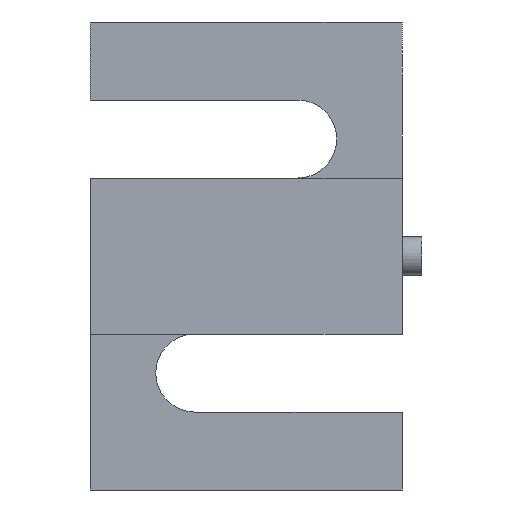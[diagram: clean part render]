
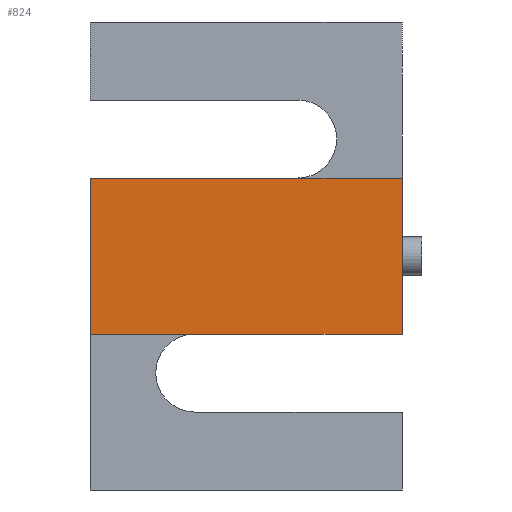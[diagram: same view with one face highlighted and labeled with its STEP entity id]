
A CAD part, front view. The second image highlights one B-rep face of the part: STEP entity #824.
In plain terms, the highlighted planar face has unit normal (0, -1, 0).
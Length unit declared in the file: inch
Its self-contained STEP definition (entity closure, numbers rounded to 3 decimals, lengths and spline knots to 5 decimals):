
#172 = CARTESIAN_POINT ( 'NONE',  ( 0., -0.125, 2. ) ) ;
#195 = DIRECTION ( 'NONE',  ( -1., 0., 0. ) ) ;
#200 = VECTOR ( 'NONE', #238, 39.37008 ) ;
#205 = CARTESIAN_POINT ( 'NONE',  ( 2., -0.125, 2. ) ) ;
#206 = LINE ( 'NONE', #205, #200 ) ;
#216 = VECTOR ( 'NONE', #195, 39.37008 ) ;
#229 = LINE ( 'NONE', #172, #216 ) ;
#238 = DIRECTION ( 'NONE',  ( 0., 0., 1. ) ) ;
#239 = CARTESIAN_POINT ( 'NONE',  ( 0., -0.125, 2. ) ) ;
#243 = CARTESIAN_POINT ( 'NONE',  ( 2., -0.125, 1. ) ) ;
#321 = VECTOR ( 'NONE', #342, 39.37008 ) ;
#322 = CARTESIAN_POINT ( 'NONE',  ( 0., -0.125, 1. ) ) ;
#323 = LINE ( 'NONE', #322, #321 ) ;
#341 = CARTESIAN_POINT ( 'NONE',  ( 0., -0.125, 1. ) ) ;
#342 = DIRECTION ( 'NONE',  ( 1., 0., 0. ) ) ;
#350 = PLANE ( 'NONE',  #360 ) ;
#353 = CARTESIAN_POINT ( 'NONE',  ( 0., -0.125, 1. ) ) ;
#358 = DIRECTION ( 'NONE',  ( 0., 0., -1. ) ) ;
#359 = DIRECTION ( 'NONE',  ( 0., -1., 0. ) ) ;
#360 = AXIS2_PLACEMENT_3D ( 'NONE', #353, #359, #358 ) ;
#372 = DIRECTION ( 'NONE',  ( 0., 0., -1. ) ) ;
#373 = CARTESIAN_POINT ( 'NONE',  ( 0., -0.125, 2. ) ) ;
#374 = LINE ( 'NONE', #373, #425 ) ;
#406 = FACE_OUTER_BOUND ( 'NONE', #729, .T. ) ;
#425 = VECTOR ( 'NONE', #372, 39.37008 ) ;
#544 = VERTEX_POINT ( 'NONE', #701 ) ;
#620 = VERTEX_POINT ( 'NONE', #239 ) ;
#622 = EDGE_CURVE ( 'NONE', #544, #620, #229, .T. ) ;
#626 = EDGE_CURVE ( 'NONE', #627, #544, #206, .T. ) ;
#627 = VERTEX_POINT ( 'NONE', #243 ) ;
#701 = CARTESIAN_POINT ( 'NONE',  ( 2., -0.125, 2. ) ) ;
#724 = ORIENTED_EDGE ( 'NONE', *, *, #746, .T. ) ;
#727 = ORIENTED_EDGE ( 'NONE', *, *, #764, .T. ) ;
#729 = EDGE_LOOP ( 'NONE', ( #727, #724, #759, #828 ) ) ;
#746 = EDGE_CURVE ( 'NONE', #747, #627, #323, .T. ) ;
#747 = VERTEX_POINT ( 'NONE', #341 ) ;
#759 = ORIENTED_EDGE ( 'NONE', *, *, #626, .T. ) ;
#764 = EDGE_CURVE ( 'NONE', #620, #747, #374, .T. ) ;
#824 = ADVANCED_FACE ( 'NONE', ( #406 ), #350, .T. ) ;
#828 = ORIENTED_EDGE ( 'NONE', *, *, #622, .T. ) ;
